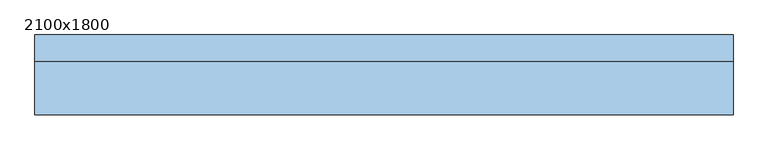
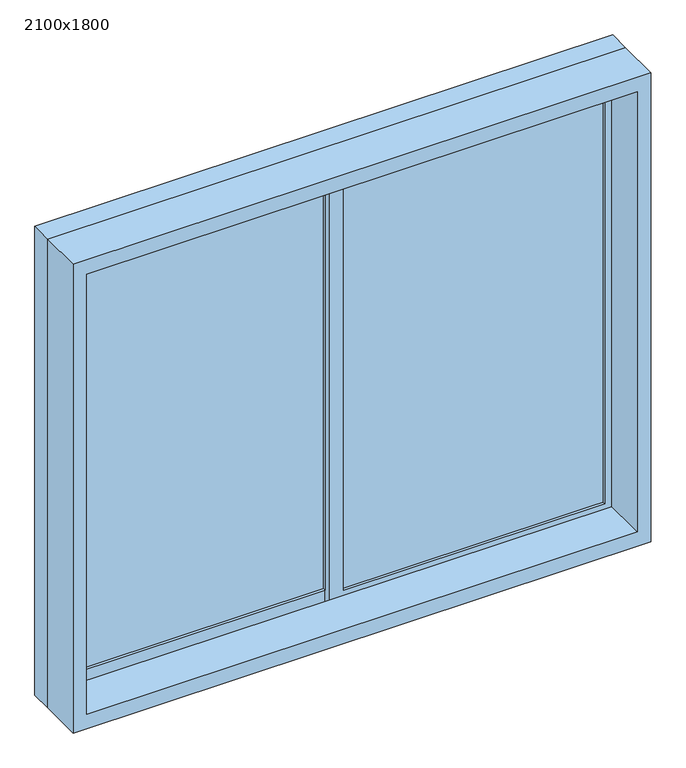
"""IFC4 building model written with IfcOpenShell, lengths in millimetres: window geometry, 推拉窗6 : 2100x1800."""

from ifc_helpers import new_model, si_unit, frame, origin, place, context, project, spatial, polyline, outline, extrude, source, transform, mapped, element, save


def window_2100x1800_b942ef4d(model_context):
    return source(origin(), model_context, "Body", "SweptSolid", [
        extrude(outline(polyline([(-965.475, 23.1265625), (-15.475, 23.1265625), (-15.475, 13.1265625), (-965.475, 13.1265625), (-965.475, 23.1265625)])), frame((0.0, 0.0, 675.0), z_axis=(0.0, 0.0, 1.0), x_axis=(1.0, 0.0, 0.0)), (0.0, 0.0, 1.0), 1650.0),
        extrude(outline(polyline([(34.525, -6.8734375), (984.525, -6.8734375), (984.525, -16.8734375), (34.525, -16.8734375), (34.525, -6.8734375)])), frame((0.0, 0.0, 675.0), z_axis=(0.0, 0.0, 1.0), x_axis=(1.0, 0.0, 0.0)), (0.0, 0.0, 1.0), 1650.0),
        extrude(outline(polyline([(2400.0, -1040.475), (600.0, -1040.475), (600.0, 1059.525), (2400.0, 1059.525), (2400.0, -1040.475)]), holes=[polyline([(2345.0, 1009.525), (655.0, 1009.525), (655.0, -990.475), (2345.0, -990.475), (2345.0, 1009.525)])]), frame((0.0, -186.8734375, 0.0), z_axis=(0.0, 1.0, 0.0), x_axis=(0.0, 0.0, 1.0)), (0.0, 0.0, 1.0), 160.0),
        extrude(outline(polyline([(625.0, 34.525), (2375.0, 34.525), (2375.0, -1015.475), (625.0, -1015.475), (625.0, 34.525)]), holes=[polyline([(675.0, -15.475), (675.0, -965.475), (2325.0, -965.475), (2325.0, -15.475), (675.0, -15.475)])]), frame((0.0, 3.1265625, 0.0), z_axis=(0.0, 1.0, 0.0), x_axis=(0.0, 0.0, 1.0)), (0.0, 0.0, 1.0), 30.0),
        extrude(outline(polyline([(2375.0, -15.475), (625.0, -15.475), (625.0, 1034.525), (2375.0, 1034.525), (2375.0, -15.475)]), holes=[polyline([(2325.0, 34.525), (2325.0, 984.525), (675.0, 984.525), (675.0, 34.525), (2325.0, 34.525)])]), frame((0.0, -26.8734375, 0.0), z_axis=(0.0, 1.0, 0.0), x_axis=(0.0, 0.0, 1.0)), (0.0, 0.0, 1.0), 30.0),
        extrude(outline(polyline([(2400.0, -1040.475), (600.0, -1040.475), (600.0, 1059.525), (2400.0, 1059.525), (2400.0, -1040.475)]), holes=[polyline([(625.0, -1015.475), (2375.0, -1015.475), (2375.0, 1034.525), (625.0, 1034.525), (625.0, -1015.475)])]), frame((0.0, -26.8734375, 0.0), z_axis=(0.0, 1.0, 0.0), x_axis=(0.0, 0.0, 1.0)), (0.0, 0.0, 1.0), 80.0),
    ])


if __name__ == "__main__":
    model = new_model("IFC4")
    model_context = context("Model", 3, world=origin())
    ifc_project = project(units=[si_unit("LENGTHUNIT", "METRE", prefix="MILLI")], contexts=[model_context])
    site = spatial("IfcSite", under=ifc_project)
    building = spatial("IfcBuilding", under=site)
    placement = place(None, origin())
    window_2100x1800_shape = window_2100x1800_b942ef4d(model_context)
    element("IfcWindow", 1, ObjectType="推拉窗6 : 2100x1800", at=placement, inside=building, context=model_context, shape_type="MappedRepresentation", body=[
        mapped(window_2100x1800_shape, transform((0.0, 0.0, 0.0), x_axis=(1.0, 0.0, 0.0), y_axis=(0.0, 1.0, 0.0), z_axis=(0.0, 0.0, 1.0))),
    ])
    save(model, "model.ifc")
